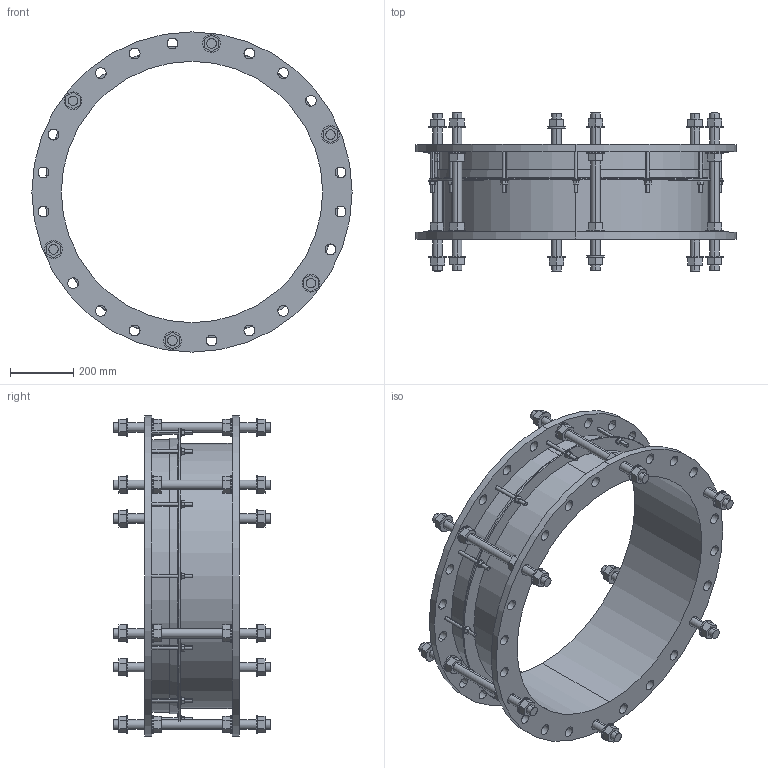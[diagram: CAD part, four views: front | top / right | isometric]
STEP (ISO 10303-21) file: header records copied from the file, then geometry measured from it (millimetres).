
FILE_DESCRIPTION((''),'2;1');
FILE_NAME('LO2_DJ_BIM_ASM','2020-11-04T',('mfairey'),('Glynwed Pipe Systems'),'CREO PARAMETRIC BY PTC INC, 2016130','CREO PARAMETRIC BY PTC INC, 2016130','');
FILE_SCHEMA(('CONFIG_CONTROL_DESIGN'));
Length unit declared in the file: millimetre
Products named in the file (3): DJ_AF0; TIE_BOLT_BIM; LO2_DJ_BIM_ASM
Assembly tree (7 placements, depth 2):
  LO2_DJ_BIM_ASM
    DJ_AF0
    TIE_BOLT_BIM  x6
Bounding box: 1015 x 500 x 1015 mm (x, y, z)
Volume: 22268926.8 mm3; surface area: 3350488.4 mm2
Topology: 7 solids, 7 shells, 656 faces, 1606 edges, 1062 vertices
Faces by surface type: plane 354, cylinder 298, cone 4
Entity records: 12868 total; most frequent: CARTESIAN_POINT 2916, DIRECTION 2154, ORIENTED_EDGE 1952, EDGE_CURVE 976, AXIS2_PLACEMENT_3D 826, VERTEX_POINT 642, EDGE_LOOP 536, VECTOR 502
